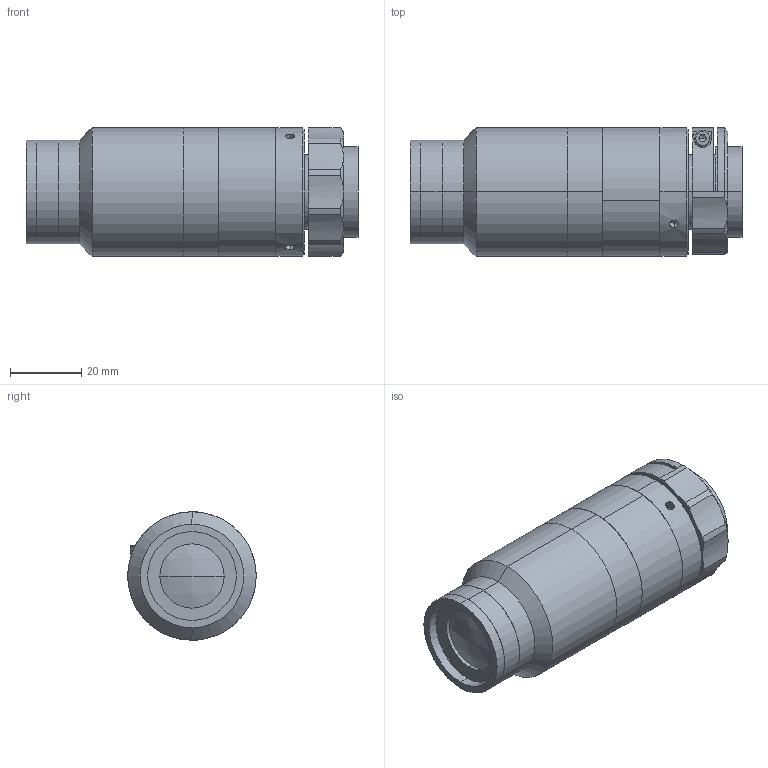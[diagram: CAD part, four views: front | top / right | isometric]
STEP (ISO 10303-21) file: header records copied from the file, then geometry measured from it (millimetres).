
FILE_DESCRIPTION (( 'STEP AP203' ), '1' );
FILE_NAME ('XF-MH04X190.STEP', '2020-08-24T07:09:58', ( 'canrill-02' ), ( '' ), 'SwSTEP 2.0', 'SolidWorks 2014', '' );
FILE_SCHEMA (( 'CONFIG_CONTROL_DESIGN' ));
Length unit declared in the file: millimetre
Products named in the file (1): XF-MH04X190
Bounding box: 93 x 36 x 36 mm (x, y, z)
Surface area: 16541.2 mm2 (no closed solid volume)
Topology: 0 solids, 13 shells, 102 faces, 264 edges, 181 vertices
Faces by surface type: cylinder 49, plane 34, cone 15, sphere 2, torus 2
Entity records: 3505 total; most frequent: CARTESIAN_POINT 867, DIRECTION 588, ORIENTED_EDGE 450, EDGE_CURVE 262, AXIS2_PLACEMENT_3D 246, VERTEX_POINT 181, CIRCLE 143, EDGE_LOOP 128
